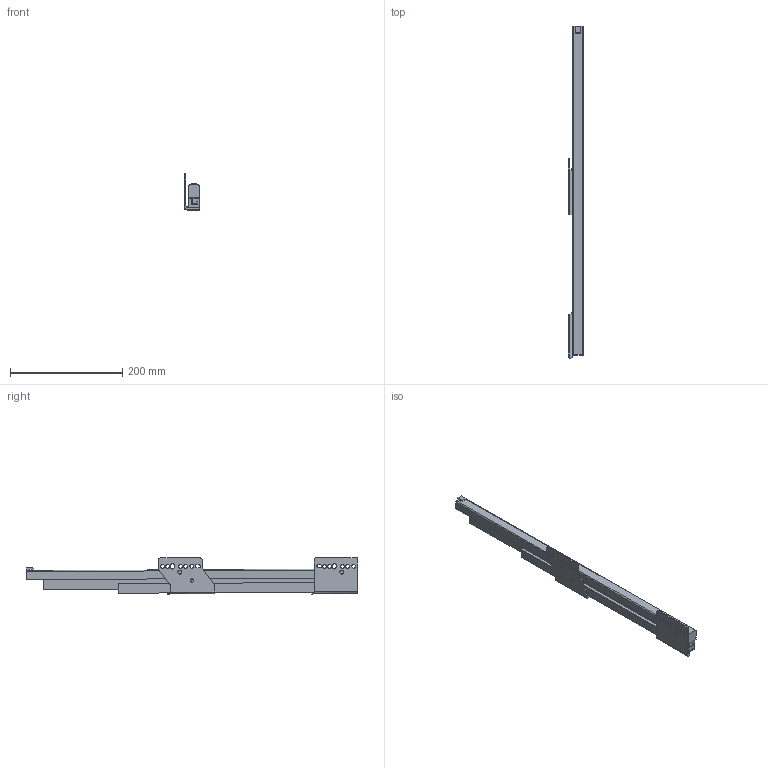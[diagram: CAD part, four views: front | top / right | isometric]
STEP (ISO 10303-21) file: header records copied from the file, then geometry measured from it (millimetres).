
FILE_DESCRIPTION (( 'STEP AP214' ), '1' );
FILE_NAME ('_IMOS_NOVA-Pro_KS_P904_LI_NL600_EB29.step', '2010-07-06T07:17:45', ( 'grass' ), ( '' ), 'SwSTEP 2.0', 'SolidWorks 2009', '' );
FILE_SCHEMA (( 'AUTOMOTIVE_DESIGN' ));
Length unit declared in the file: millimetre
Products named in the file (1): _IMOS_NOVA-Pro_KS_P904_LI_NL600_EB29
Bounding box: 26.75 x 590.34 x 64.46 mm (x, y, z)
Volume: 420589.3 mm3; surface area: 174081.3 mm2
Topology: 6 solids, 6 shells, 144 faces, 392 edges, 260 vertices
Faces by surface type: plane 89, cylinder 55
Entity records: 4691 total; most frequent: CARTESIAN_POINT 848, ORIENTED_EDGE 784, DIRECTION 765, EDGE_CURVE 392, LINE 275, VECTOR 275, VERTEX_POINT 260, AXIS2_PLACEMENT_3D 245
